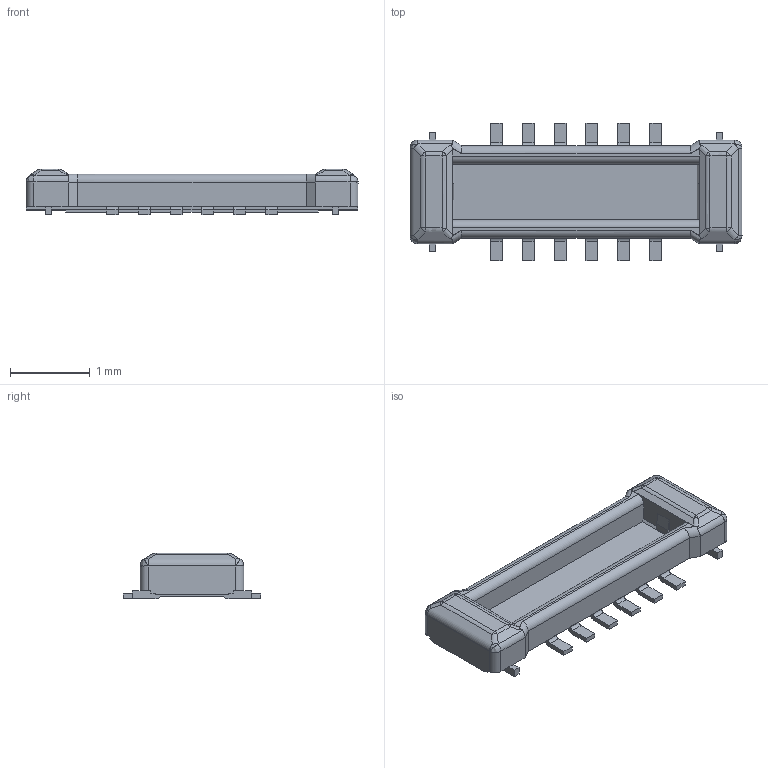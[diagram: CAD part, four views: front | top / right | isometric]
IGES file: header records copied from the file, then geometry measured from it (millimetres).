
Start section: SolidWorks IGES file using analytic representation for surfaces
Global section: file name: C:\Users\110565014\Desktop\14_5807_012_012_829_+.IGS; native system: SolidWorks 2014; preprocessor: SolidWorks 2014; author: 110565014; date: 160405.144724; units: millimetre
Bounding box: 4.16 x 1.72 x 0.57 mm (x, y, z)
Surface area: 19.3 mm2 (no closed solid volume)
Topology: 0 solids, 0 shells, 226 faces, 1396 edges, 1379 vertices
Faces by surface type: bspline 172, revolution 54
